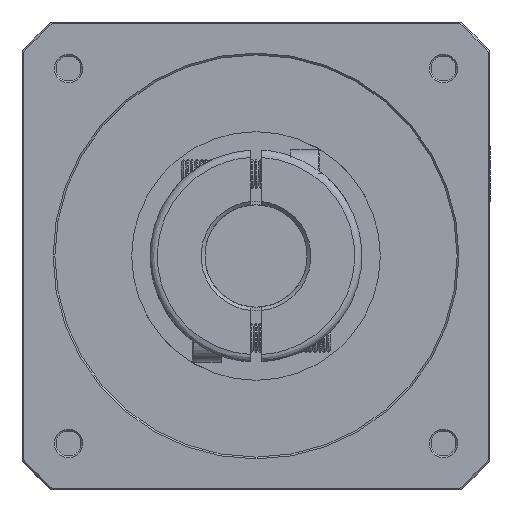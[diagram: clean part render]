
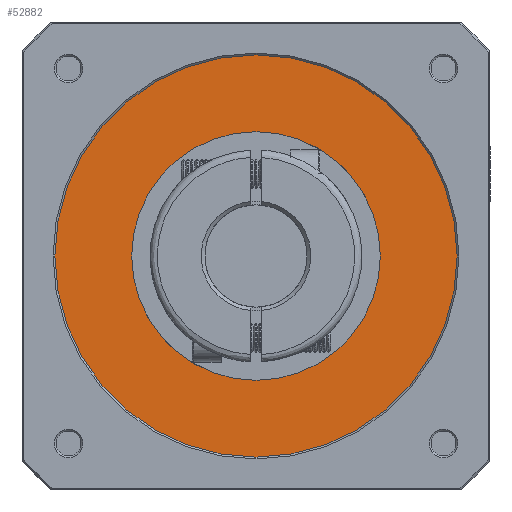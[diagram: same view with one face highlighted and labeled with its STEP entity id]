
A CAD part, front view. The second image highlights one B-rep face of the part: STEP entity #52882.
In plain terms, the highlighted planar face has unit normal (0, 1, 0).
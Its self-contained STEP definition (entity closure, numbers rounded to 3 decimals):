
#2326 = CARTESIAN_POINT ( 'NONE',  ( 0., -140.611, 55. ) ) ;
#5284 = FACE_OUTER_BOUND ( 'NONE', #34690, .T. ) ;
#6299 = EDGE_LOOP ( 'NONE', ( #43385, #100146 ) ) ;
#7613 = DIRECTION ( 'NONE',  ( 0., 1., 0. ) ) ;
#8835 = CARTESIAN_POINT ( 'NONE',  ( 0., -140.611, 0. ) ) ;
#10085 = EDGE_CURVE ( 'NONE', #32972, #41750, #28901, .T. ) ;
#14577 = CIRCLE ( 'NONE', #76779, 34. ) ;
#15730 = VERTEX_POINT ( 'NONE', #62638 ) ;
#16532 = DIRECTION ( 'NONE',  ( 0., 0., -1. ) ) ;
#18190 = ORIENTED_EDGE ( 'NONE', *, *, #10085, .T. ) ;
#22906 = CIRCLE ( 'NONE', #62572, 34. ) ;
#23242 = AXIS2_PLACEMENT_3D ( 'NONE', #8835, #62877, #16532 ) ;
#26927 = CARTESIAN_POINT ( 'NONE',  ( 0., -140.611, 0. ) ) ;
#28901 = CIRCLE ( 'NONE', #23242, 55. ) ;
#32972 = VERTEX_POINT ( 'NONE', #2326 ) ;
#34668 = DIRECTION ( 'NONE',  ( 0., 0., 1. ) ) ;
#34690 = EDGE_LOOP ( 'NONE', ( #94481, #18190 ) ) ;
#36127 = PLANE ( 'NONE',  #44151 ) ;
#41750 = VERTEX_POINT ( 'NONE', #69700 ) ;
#42140 = CARTESIAN_POINT ( 'NONE',  ( 0., -140.611, 0. ) ) ;
#43385 = ORIENTED_EDGE ( 'NONE', *, *, #68373, .T. ) ;
#44151 = AXIS2_PLACEMENT_3D ( 'NONE', #90535, #44257, #98232 ) ;
#44257 = DIRECTION ( 'NONE',  ( 0., -1., 0. ) ) ;
#49561 = CIRCLE ( 'NONE', #54711, 55. ) ;
#49988 = DIRECTION ( 'NONE',  ( 0., 0., 1. ) ) ;
#52048 = CARTESIAN_POINT ( 'NONE',  ( 0., -140.611, -34. ) ) ;
#52882 = ADVANCED_FACE ( 'NONE', ( #64499, #5284 ), #36127, .F. ) ;
#53891 = CARTESIAN_POINT ( 'NONE',  ( 0., -140.611, 0. ) ) ;
#54711 = AXIS2_PLACEMENT_3D ( 'NONE', #53891, #7613, #61670 ) ;
#56452 = EDGE_CURVE ( 'NONE', #41750, #32972, #49561, .T. ) ;
#61670 = DIRECTION ( 'NONE',  ( 0., 0., -1. ) ) ;
#62572 = AXIS2_PLACEMENT_3D ( 'NONE', #42140, #96167, #49988 ) ;
#62638 = CARTESIAN_POINT ( 'NONE',  ( 0., -140.611, 34. ) ) ;
#62877 = DIRECTION ( 'NONE',  ( 0., 1., 0. ) ) ;
#64499 = FACE_BOUND ( 'NONE', #6299, .T. ) ;
#67762 = EDGE_CURVE ( 'NONE', #90900, #15730, #14577, .T. ) ;
#68373 = EDGE_CURVE ( 'NONE', #15730, #90900, #22906, .T. ) ;
#69700 = CARTESIAN_POINT ( 'NONE',  ( 0., -140.611, -55. ) ) ;
#76779 = AXIS2_PLACEMENT_3D ( 'NONE', #26927, #81035, #34668 ) ;
#81035 = DIRECTION ( 'NONE',  ( 0., -1., 0. ) ) ;
#90535 = CARTESIAN_POINT ( 'NONE',  ( -55.66, -140.611, -55.66 ) ) ;
#90900 = VERTEX_POINT ( 'NONE', #52048 ) ;
#94481 = ORIENTED_EDGE ( 'NONE', *, *, #56452, .T. ) ;
#96167 = DIRECTION ( 'NONE',  ( 0., -1., 0. ) ) ;
#98232 = DIRECTION ( 'NONE',  ( 1., 0., 0. ) ) ;
#100146 = ORIENTED_EDGE ( 'NONE', *, *, #67762, .T. ) ;
